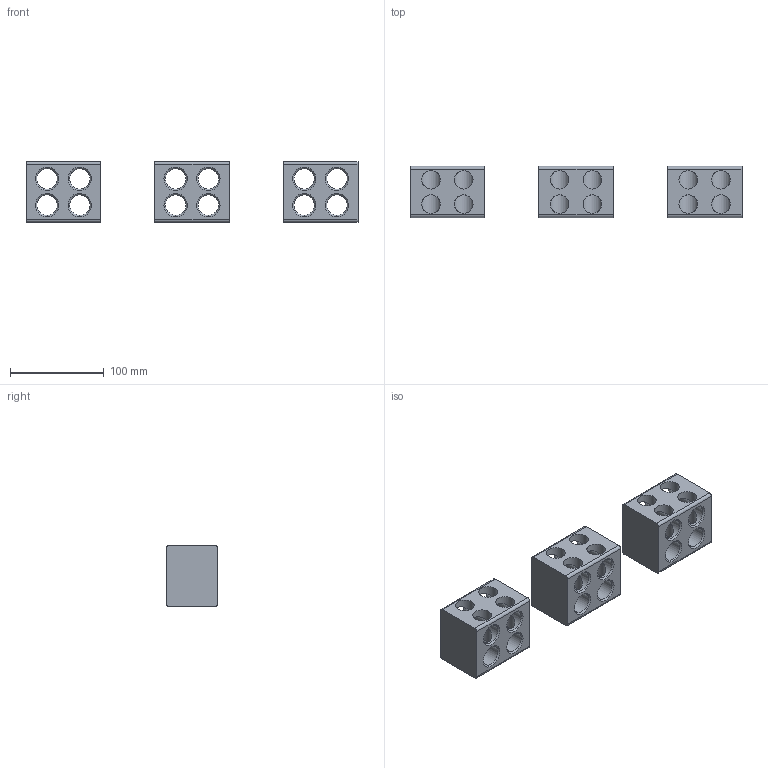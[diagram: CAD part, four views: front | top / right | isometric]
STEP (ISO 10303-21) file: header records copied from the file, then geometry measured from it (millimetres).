
FILE_DESCRIPTION (( 'STEP AP214' ), '1' );
FILE_NAME ('Êîìïëåêò çàæèìîâ ÷åòûðåõãíåçäíûõ 185 êâ ìì ÂÀ50-43-3 íèæíèå.STEP', '2023-01-31T11:45:08', ( '' ), ( '' ), 'SwSTEP 2.0', 'SolidWorks 2018', '' );
FILE_SCHEMA (( 'AUTOMOTIVE_DESIGN' ));
Length unit declared in the file: millimetre
Products named in the file (1): Êîìïëåêò çàæèìîâ ÷åòûðåõãíåçäíûõ 185 êâ ìì ÂÀ50-43-3 íèæíèå
Bounding box: 355 x 55 x 65 mm (x, y, z)
Volume: 530435.3 mm3; surface area: 114834 mm2
Topology: 3 solids, 3 shells, 102 faces, 318 edges, 216 vertices
Faces by surface type: cylinder 54, cone 30, plane 18
Full cylindrical faces by diameter (mm): 10 x6, 20 x24, 22 x12
Entity records: 7880 total; most frequent: CARTESIAN_POINT 4363, DIRECTION 446, ORIENTED_EDGE 384, EDGE_LOOP 252, AXIS2_PLACEMENT_3D 199, EDGE_CURVE 192, VERTEX_POINT 162, FACE_OUTER_BOUND 144
